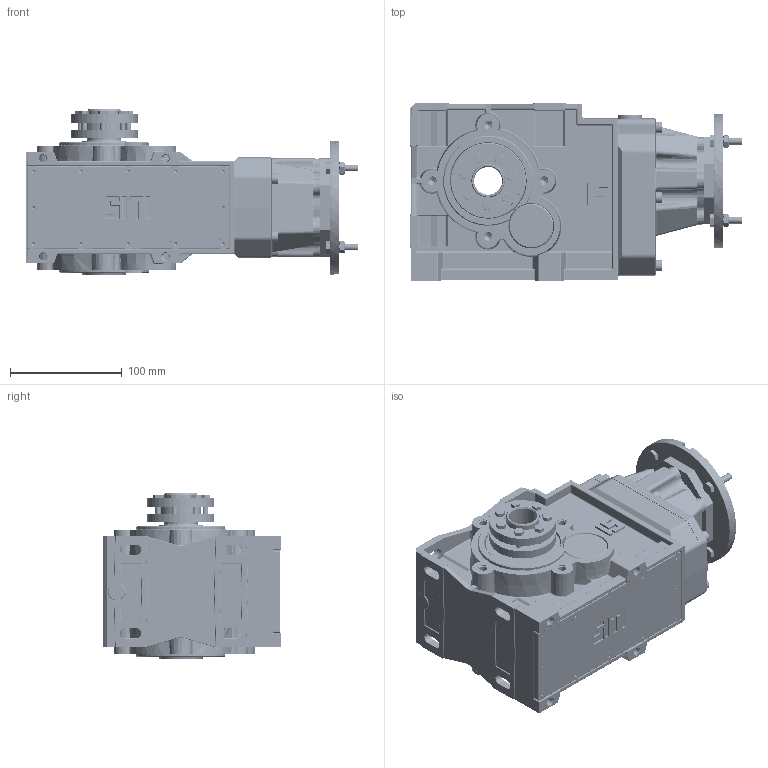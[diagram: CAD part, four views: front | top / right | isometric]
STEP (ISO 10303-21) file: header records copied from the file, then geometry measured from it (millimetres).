
FILE_DESCRIPTION((''),'2;1');
FILE_NAME('C:\Users\m.piscopiello.SITIRIDUTTORI\Desktop\3D x SITO\MBH 56 PAM 56\MBH_56 CC-A PAM56 B5.stp','2013-04-22T17:24:14',('m.piscopiello'),(''),'Autodesk Inventor 2012','Autodesk Inventor 2012','');
FILE_SCHEMA(('CONFIG_CONTROL_DESIGN'));
Length unit declared in the file: millimetre
Products named in the file (1): MBH_56 CC-A PAM56 B5
Bounding box: 297.5 x 160 x 148 mm (x, y, z)
Volume: 1384367.5 mm3; surface area: 462460.6 mm2
Topology: 32 solids, 60 shells, 4733 faces, 11284 edges, 6581 vertices
Faces by surface type: cylinder 1500, plane 1308, bspline 840, torus 519, cone 367, sphere 199
Full cylindrical faces by diameter (mm): 3 x4, 3.242 x12, 4.917 x6, 5 x7, 6 x28, 6.5 x10, 6.647 x12, 7 x24, 8.5 x1, 8.7 x11, 8.88 x4, 9.9 x1, 10 x25, 11 x7, 12.5 x1, 15.01 x1, 18.2 x1, 19 x1, 19.37 x1, 19.97 x2, 23.5 x1, 25 x2, 26 x1, 30 x3, 33 x2, 34.4 x1, 35 x3, 36.875 x2, 37 x1, 39.4 x1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
Entity records: 154966 total; most frequent: CARTESIAN_POINT 49261, DIRECTION 21076, ORIENTED_EDGE 20288, EDGE_CURVE 10145, AXIS2_PLACEMENT_3D 8674, VERTEX_POINT 6272, EDGE_LOOP 5607, FACE_OUTER_BOUND 4733
